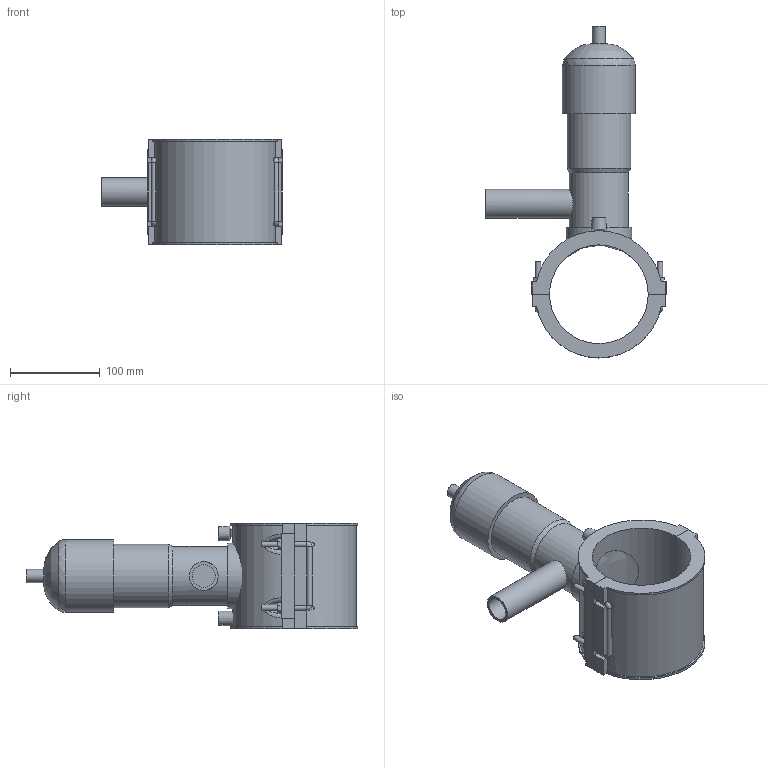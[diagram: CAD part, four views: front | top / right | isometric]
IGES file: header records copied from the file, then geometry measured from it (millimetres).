
Global section: file name: 495404110032.ipt; native system: Autodesk Inventor 2015; preprocessor: unknown; author: KIM; date: 20171106.094246; units: millimetre
Bounding box: 201 x 369.81 x 118 mm (x, y, z)
Volume: 1622083 mm3; surface area: 207567.2 mm2
Topology: 3 solids, 5 shells, 157 faces, 388 edges, 246 vertices
Faces by surface type: plane 93, cylinder 29, revolution 16, bspline 12, cone 7
Full cylindrical faces by diameter (mm): 4 x2, 6 x8, 14.64 x1, 32 x1, 65.88 x1, 70.76 x1, 73.2 x1, 81.333 x1
